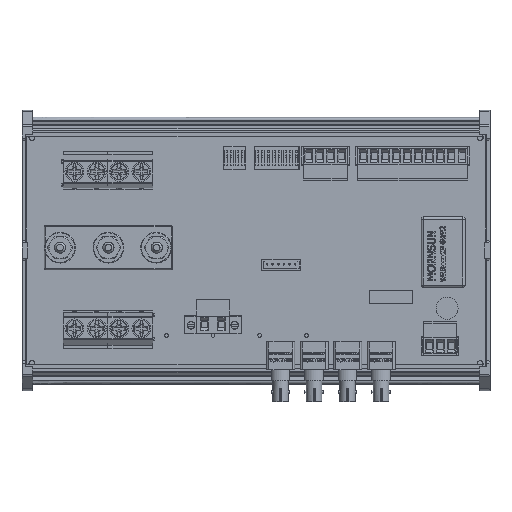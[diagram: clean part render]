
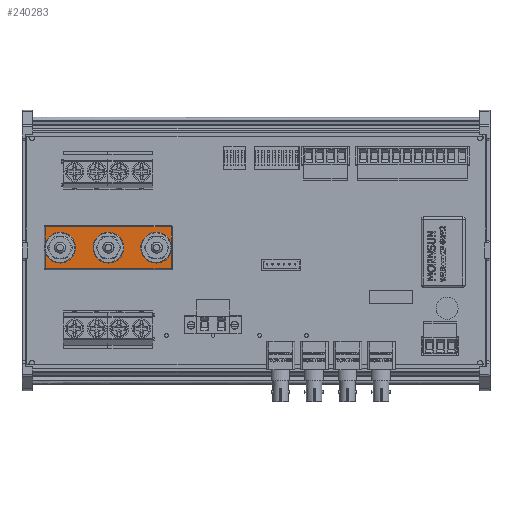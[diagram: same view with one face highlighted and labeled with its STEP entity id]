
A CAD part, top view. The second image highlights one B-rep face of the part: STEP entity #240283.
In plain terms, the highlighted planar face has unit normal (0, 0, 1).
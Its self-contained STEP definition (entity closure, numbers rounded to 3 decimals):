
#239706 = CYLINDRICAL_SURFACE('',#239707,0.5);
#239707 = AXIS2_PLACEMENT_3D('',#239708,#239709,#239710);
#239708 = CARTESIAN_POINT('',(0.5,0.,4.5));
#239709 = DIRECTION('',(0.,1.,0.));
#239710 = DIRECTION('',(-1.,0.,0.));
#239889 = VERTEX_POINT('',#239890);
#239890 = CARTESIAN_POINT('',(0.5,0.5,5.));
#239910 = EDGE_CURVE('',#239889,#239911,#239913,.T.);
#239911 = VERTEX_POINT('',#239912);
#239912 = CARTESIAN_POINT('',(0.5,19.5,5.));
#239913 = SURFACE_CURVE('',#239914,(#239918,#239925),.PCURVE_S1.);
#239914 = LINE('',#239915,#239916);
#239915 = CARTESIAN_POINT('',(0.5,0.,5.));
#239916 = VECTOR('',#239917,1.);
#239917 = DIRECTION('',(0.,1.,0.));
#239918 = PCURVE('',#239706,#239919);
#239919 = DEFINITIONAL_REPRESENTATION('',(#239920),#239924);
#239920 = LINE('',#239921,#239922);
#239921 = CARTESIAN_POINT('',(1.571,0.));
#239922 = VECTOR('',#239923,1.);
#239923 = DIRECTION('',(0.,1.));
#239924 = ( GEOMETRIC_REPRESENTATION_CONTEXT(2) 
PARAMETRIC_REPRESENTATION_CONTEXT() REPRESENTATION_CONTEXT('2D SPACE',''
  ) );
#239925 = PCURVE('',#239926,#239931);
#239926 = PLANE('',#239927);
#239927 = AXIS2_PLACEMENT_3D('',#239928,#239929,#239930);
#239928 = CARTESIAN_POINT('',(0.,0.,5.));
#239929 = DIRECTION('',(0.,0.,1.));
#239930 = DIRECTION('',(1.,0.,0.));
#239931 = DEFINITIONAL_REPRESENTATION('',(#239932),#239936);
#239932 = LINE('',#239933,#239934);
#239933 = CARTESIAN_POINT('',(0.5,0.));
#239934 = VECTOR('',#239935,1.);
#239935 = DIRECTION('',(0.,1.));
#239936 = ( GEOMETRIC_REPRESENTATION_CONTEXT(2) 
PARAMETRIC_REPRESENTATION_CONTEXT() REPRESENTATION_CONTEXT('2D SPACE',''
  ) );
#240090 = CYLINDRICAL_SURFACE('',#240091,0.5);
#240091 = AXIS2_PLACEMENT_3D('',#240092,#240093,#240094);
#240092 = CARTESIAN_POINT('',(0.,0.5,4.5));
#240093 = DIRECTION('',(1.,0.,0.));
#240094 = DIRECTION('',(0.,-1.,0.));
#240283 = ADVANCED_FACE('',(#240284),#239926,.T.);
#240284 = FACE_BOUND('',#240285,.T.);
#240285 = EDGE_LOOP('',(#240286,#240287,#240310,#240338));
#240286 = ORIENTED_EDGE('',*,*,#239910,.F.);
#240287 = ORIENTED_EDGE('',*,*,#240288,.T.);
#240288 = EDGE_CURVE('',#239889,#240289,#240291,.T.);
#240289 = VERTEX_POINT('',#240290);
#240290 = CARTESIAN_POINT('',(57.8,0.5,5.));
#240291 = SURFACE_CURVE('',#240292,(#240296,#240303),.PCURVE_S1.);
#240292 = LINE('',#240293,#240294);
#240293 = CARTESIAN_POINT('',(0.,0.5,5.));
#240294 = VECTOR('',#240295,1.);
#240295 = DIRECTION('',(1.,0.,0.));
#240296 = PCURVE('',#239926,#240297);
#240297 = DEFINITIONAL_REPRESENTATION('',(#240298),#240302);
#240298 = LINE('',#240299,#240300);
#240299 = CARTESIAN_POINT('',(0.,0.5));
#240300 = VECTOR('',#240301,1.);
#240301 = DIRECTION('',(1.,0.));
#240302 = ( GEOMETRIC_REPRESENTATION_CONTEXT(2) 
PARAMETRIC_REPRESENTATION_CONTEXT() REPRESENTATION_CONTEXT('2D SPACE',''
  ) );
#240303 = PCURVE('',#240090,#240304);
#240304 = DEFINITIONAL_REPRESENTATION('',(#240305),#240309);
#240305 = LINE('',#240306,#240307);
#240306 = CARTESIAN_POINT('',(4.712,0.));
#240307 = VECTOR('',#240308,1.);
#240308 = DIRECTION('',(0.,1.));
#240309 = ( GEOMETRIC_REPRESENTATION_CONTEXT(2) 
PARAMETRIC_REPRESENTATION_CONTEXT() REPRESENTATION_CONTEXT('2D SPACE',''
  ) );
#240310 = ORIENTED_EDGE('',*,*,#240311,.T.);
#240311 = EDGE_CURVE('',#240289,#240312,#240314,.T.);
#240312 = VERTEX_POINT('',#240313);
#240313 = CARTESIAN_POINT('',(57.8,19.5,5.));
#240314 = SURFACE_CURVE('',#240315,(#240319,#240326),.PCURVE_S1.);
#240315 = LINE('',#240316,#240317);
#240316 = CARTESIAN_POINT('',(57.8,0.,5.));
#240317 = VECTOR('',#240318,1.);
#240318 = DIRECTION('',(0.,1.,0.));
#240319 = PCURVE('',#239926,#240320);
#240320 = DEFINITIONAL_REPRESENTATION('',(#240321),#240325);
#240321 = LINE('',#240322,#240323);
#240322 = CARTESIAN_POINT('',(57.8,0.));
#240323 = VECTOR('',#240324,1.);
#240324 = DIRECTION('',(0.,1.));
#240325 = ( GEOMETRIC_REPRESENTATION_CONTEXT(2) 
PARAMETRIC_REPRESENTATION_CONTEXT() REPRESENTATION_CONTEXT('2D SPACE',''
  ) );
#240326 = PCURVE('',#240327,#240332);
#240327 = CYLINDRICAL_SURFACE('',#240328,0.5);
#240328 = AXIS2_PLACEMENT_3D('',#240329,#240330,#240331);
#240329 = CARTESIAN_POINT('',(57.8,0.,4.5));
#240330 = DIRECTION('',(0.,1.,0.));
#240331 = DIRECTION('',(1.,0.,0.));
#240332 = DEFINITIONAL_REPRESENTATION('',(#240333),#240337);
#240333 = LINE('',#240334,#240335);
#240334 = CARTESIAN_POINT('',(4.712,0.));
#240335 = VECTOR('',#240336,1.);
#240336 = DIRECTION('',(0.,1.));
#240337 = ( GEOMETRIC_REPRESENTATION_CONTEXT(2) 
PARAMETRIC_REPRESENTATION_CONTEXT() REPRESENTATION_CONTEXT('2D SPACE',''
  ) );
#240338 = ORIENTED_EDGE('',*,*,#240339,.F.);
#240339 = EDGE_CURVE('',#239911,#240312,#240340,.T.);
#240340 = SURFACE_CURVE('',#240341,(#240345,#240352),.PCURVE_S1.);
#240341 = LINE('',#240342,#240343);
#240342 = CARTESIAN_POINT('',(0.,19.5,5.));
#240343 = VECTOR('',#240344,1.);
#240344 = DIRECTION('',(1.,0.,0.));
#240345 = PCURVE('',#239926,#240346);
#240346 = DEFINITIONAL_REPRESENTATION('',(#240347),#240351);
#240347 = LINE('',#240348,#240349);
#240348 = CARTESIAN_POINT('',(0.,19.5));
#240349 = VECTOR('',#240350,1.);
#240350 = DIRECTION('',(1.,0.));
#240351 = ( GEOMETRIC_REPRESENTATION_CONTEXT(2) 
PARAMETRIC_REPRESENTATION_CONTEXT() REPRESENTATION_CONTEXT('2D SPACE',''
  ) );
#240352 = PCURVE('',#240353,#240358);
#240353 = CYLINDRICAL_SURFACE('',#240354,0.5);
#240354 = AXIS2_PLACEMENT_3D('',#240355,#240356,#240357);
#240355 = CARTESIAN_POINT('',(0.,19.5,4.5));
#240356 = DIRECTION('',(1.,0.,0.));
#240357 = DIRECTION('',(0.,1.,0.));
#240358 = DEFINITIONAL_REPRESENTATION('',(#240359),#240363);
#240359 = LINE('',#240360,#240361);
#240360 = CARTESIAN_POINT('',(1.571,0.));
#240361 = VECTOR('',#240362,1.);
#240362 = DIRECTION('',(0.,1.));
#240363 = ( GEOMETRIC_REPRESENTATION_CONTEXT(2) 
PARAMETRIC_REPRESENTATION_CONTEXT() REPRESENTATION_CONTEXT('2D SPACE',''
  ) );
